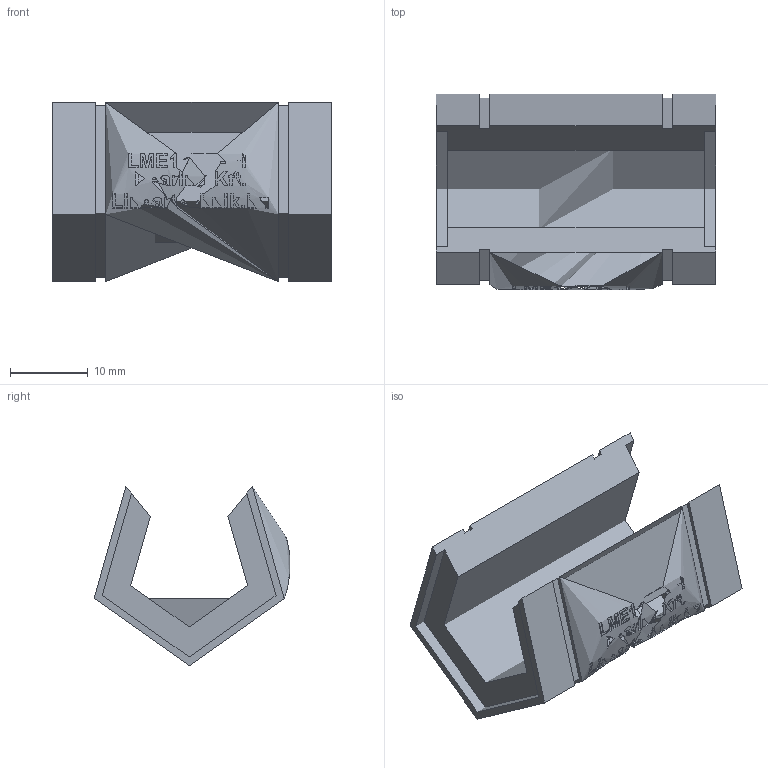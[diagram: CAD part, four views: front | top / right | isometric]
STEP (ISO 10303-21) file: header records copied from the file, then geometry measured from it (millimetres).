
FILE_DESCRIPTION(/* description */ (''),/* implementation_level */ '2;1');
FILE_NAME(/* name */ 'LME16UU-OP',/* time_stamp */ '2019-07-02T16:22:51+02:00',/* author */ ('VĂ©gh MĂˇtĂ©'),/* organization */ ('Bearing Kft'),/* preprocessor_version */ 'ST-DEVELOPER v16.7',/* originating_system */ 'DEX',/* authorisation */ $);
FILE_SCHEMA (('AUTOMOTIVE_DESIGN {1 0 10303 214 3 1 1}'));
Length unit declared in the file: millimetre
Products named in the file (1): LME16UU-OP
Bounding box: 36 x 25.26 x 23.13 mm (x, y, z)
Topology: 0 solids, 3 shells, 337 faces, 856 edges, 573 vertices
Faces by surface type: plane 182, bspline 96, cylinder 59
Full cylindrical faces by diameter (mm): 25.8 x1
Entity records: 16568 total; most frequent: CARTESIAN_POINT 8905, ORIENTED_EDGE 1698, DIRECTION 1311, EDGE_CURVE 849, VERTEX_POINT 569, LINE 481, VECTOR 481, AXIS2_PLACEMENT_3D 415
